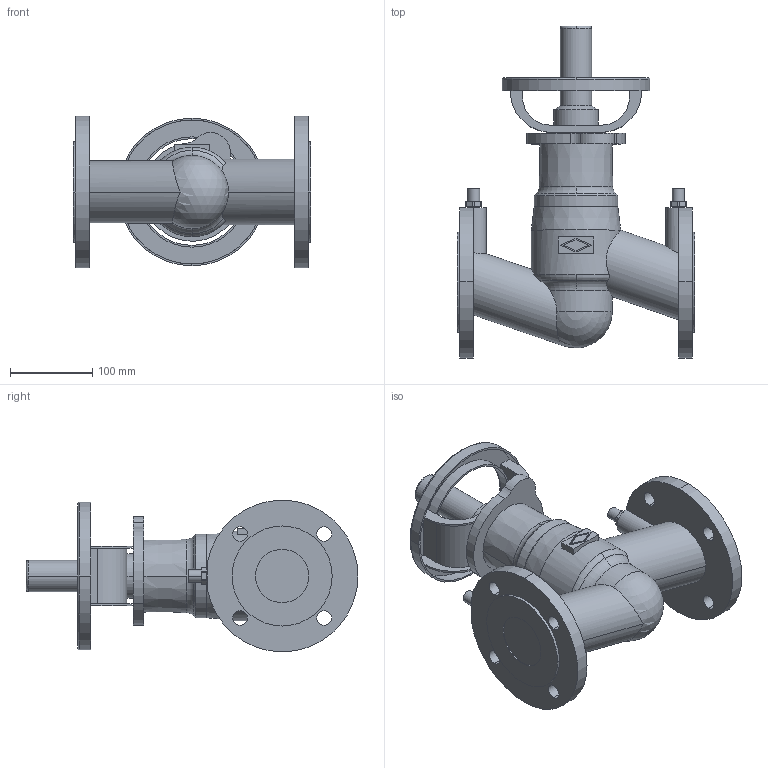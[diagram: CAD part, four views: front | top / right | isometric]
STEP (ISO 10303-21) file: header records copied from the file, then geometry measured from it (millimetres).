
FILE_DESCRIPTION( ( '' ), '1' );
FILE_NAME( 'F:/DE-SHS/TB/OR/04-Sonstiges/daten/files_3d/12020/c000000215.stp', '2015-04-28T06:36:32', ( '' ), ( '' ), ' ', ' ', ' ' );
FILE_SCHEMA( ( 'CONFIG_CONTROL_DESIGN' ) );
Length unit declared in the file: millimetre
Products named in the file (1): 1
Bounding box: 290 x 404.75 x 185 mm (x, y, z)
Volume: 3963810.1 mm3; surface area: 364430.3 mm2
Topology: 1 solids, 1 shells, 185 faces, 485 edges, 318 vertices
Faces by surface type: cylinder 91, plane 69, torus 16, cone 8, sphere 1
Entity records: 6380 total; most frequent: CARTESIAN_POINT 1559, DIRECTION 1060, ORIENTED_EDGE 966, EDGE_CURVE 483, AXIS2_PLACEMENT_3D 413, VERTEX_POINT 318, LINE 234, VECTOR 234
